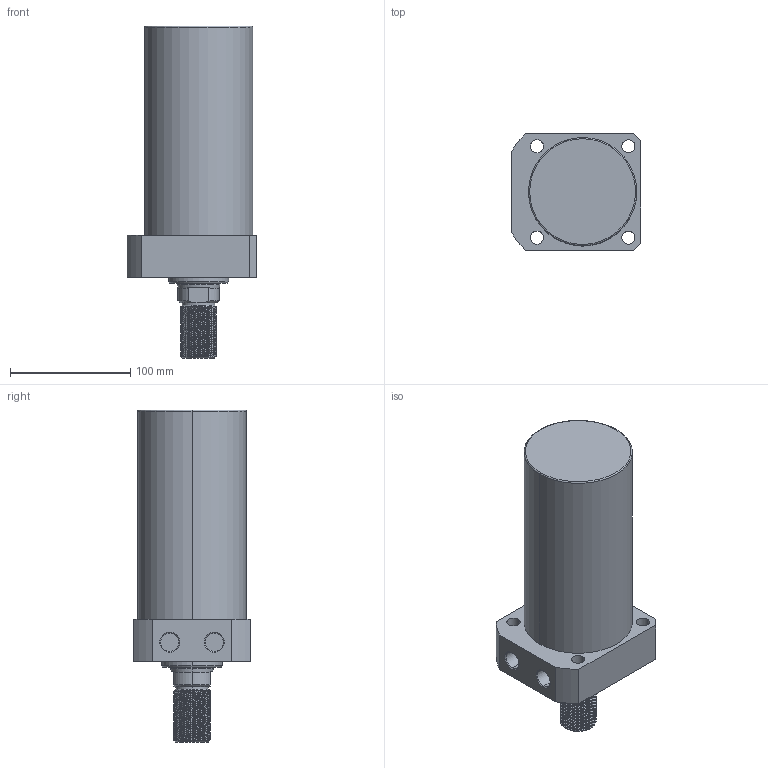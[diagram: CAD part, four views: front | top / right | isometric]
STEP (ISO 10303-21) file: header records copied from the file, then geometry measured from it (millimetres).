
FILE_DESCRIPTION (( 'STEP AP214' ), '1' );
FILE_NAME ('CLLR-090CT-130.STEP', '2020-01-10T02:43:20', ( 'Windows' ), ( 'Microsoft' ), 'SwSTEP 2.0', 'SolidWorks 2015', '' );
FILE_SCHEMA (( 'AUTOMOTIVE_DESIGN' ));
Length unit declared in the file: millimetre
Products named in the file (1): CLLR-090CT-130
Bounding box: 108 x 97 x 276 mm (x, y, z)
Volume: 1500721.4 mm3; surface area: 98300 mm2
Topology: 1 solids, 1 shells, 125 faces, 331 edges, 216 vertices
Faces by surface type: cylinder 85, plane 20, cone 16, torus 2, bspline 2
Entity records: 7050 total; most frequent: CARTESIAN_POINT 4154, ORIENTED_EDGE 662, DIRECTION 530, EDGE_CURVE 331, VERTEX_POINT 216, AXIS2_PLACEMENT_3D 204, EDGE_LOOP 141, ADVANCED_FACE 125
